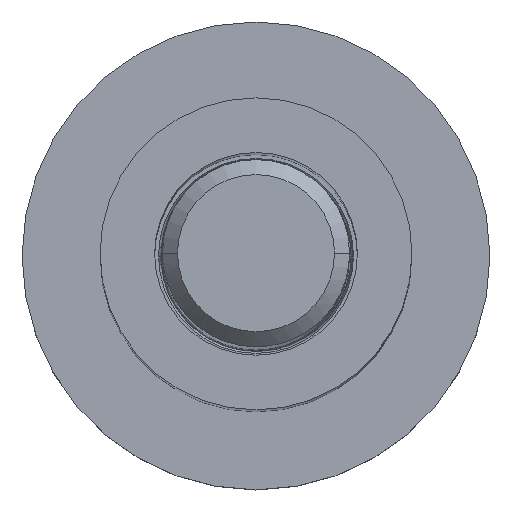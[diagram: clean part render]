
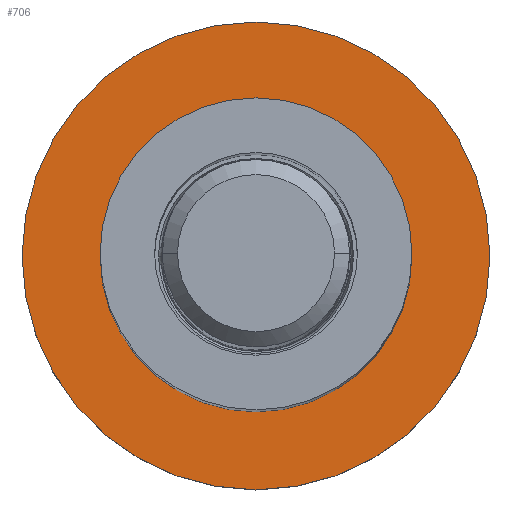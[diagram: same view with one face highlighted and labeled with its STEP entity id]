
A CAD part, top view. The second image highlights one B-rep face of the part: STEP entity #706.
In plain terms, the highlighted planar face has unit normal (0, 0, 1).
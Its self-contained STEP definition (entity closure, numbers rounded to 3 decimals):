
#367=CARTESIAN_POINT('Vertex',(15.,0.,0.)) ;
#370=CARTESIAN_POINT('Axis2P3D Location',(0.,0.,0.)) ;
#374=CARTESIAN_POINT('Vertex',(-15.,0.,0.)) ;
#394=CARTESIAN_POINT('Axis2P3D Location',(0.,0.,0.)) ;
#679=CARTESIAN_POINT('Axis2P3D Location',(0.,0.,0.)) ;
#688=CARTESIAN_POINT('Axis2P3D Location',(0.,0.,0.)) ;
#692=CARTESIAN_POINT('Vertex',(-10.,0.,0.)) ;
#694=CARTESIAN_POINT('Vertex',(10.,0.,0.)) ;
#697=CARTESIAN_POINT('Axis2P3D Location',(0.,0.,0.)) ;
#371=DIRECTION('Axis2P3D Direction',(-0.,0.,-1.)) ;
#395=DIRECTION('Axis2P3D Direction',(-0.,0.,-1.)) ;
#680=DIRECTION('Axis2P3D Direction',(0.,0.,1.)) ;
#681=DIRECTION('Axis2P3D XDirection',(1.,0.,-0.)) ;
#689=DIRECTION('Axis2P3D Direction',(0.,0.,1.)) ;
#698=DIRECTION('Axis2P3D Direction',(0.,0.,1.)) ;
#372=AXIS2_PLACEMENT_3D('Circle Axis2P3D',#370,#371,$) ;
#396=AXIS2_PLACEMENT_3D('Circle Axis2P3D',#394,#395,$) ;
#682=AXIS2_PLACEMENT_3D('Plane Axis2P3D',#679,#680,#681) ;
#690=AXIS2_PLACEMENT_3D('Circle Axis2P3D',#688,#689,$) ;
#699=AXIS2_PLACEMENT_3D('Circle Axis2P3D',#697,#698,$) ;
#685=ORIENTED_EDGE('',*,*,#376,.T.) ;
#686=ORIENTED_EDGE('',*,*,#398,.T.) ;
#703=ORIENTED_EDGE('',*,*,#696,.F.) ;
#704=ORIENTED_EDGE('',*,*,#701,.F.) ;
#705=FACE_BOUND('',#702,.T.) ;
#706=ADVANCED_FACE('Sposta faccia1',(#687,#705),#683,.T.) ;
#373=CIRCLE('generated circle',#372,15.) ;
#397=CIRCLE('generated circle',#396,15.) ;
#691=CIRCLE('generated circle',#690,10.) ;
#700=CIRCLE('generated circle',#699,10.) ;
#376=EDGE_CURVE('',#375,#368,#373,.F.) ;
#398=EDGE_CURVE('',#368,#375,#397,.F.) ;
#696=EDGE_CURVE('',#693,#695,#691,.T.) ;
#701=EDGE_CURVE('',#695,#693,#700,.T.) ;
#684=EDGE_LOOP('',(#685,#686)) ;
#702=EDGE_LOOP('',(#703,#704)) ;
#687=FACE_OUTER_BOUND('',#684,.T.) ;
#683=PLANE('Plane',#682) ;
#368=VERTEX_POINT('',#367) ;
#375=VERTEX_POINT('',#374) ;
#693=VERTEX_POINT('',#692) ;
#695=VERTEX_POINT('',#694) ;
